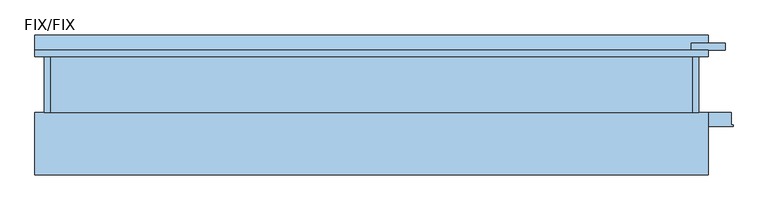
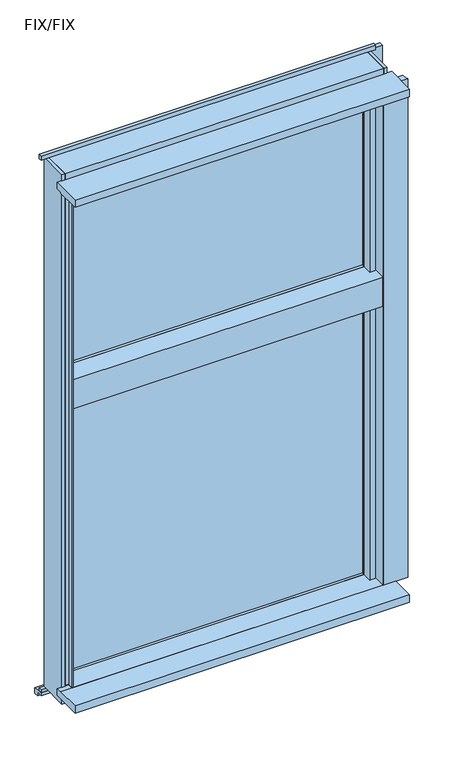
"""IFC4 building model written with IfcOpenShell, lengths in millimetres: window geometry, FNSⅡ100R_非防火_ALC枠_段窓 : FIX/FIX."""

import ifcopenshell
import ifcopenshell.guid

model = None  # the IFC model being written
_history = None  # IfcOwnerHistory: only IFC2X3 demands one
_inside = {}  # id of a spatial element -> (the spatial element, [elements in it])
_under = {}  # id of a project, library or spatial element -> (it, [spatial elements below it])
_declared = {}  # id of a project -> (the project, [libraries it declares])
_typed = {}  # id of a type object -> (the type object, [elements of that type])
_made_of = {}  # id of a material, layer set ... -> (it, [elements and type objects made of it])


def new_model(schema):
    """Start an empty IFC model of exactly this schema.

    Asked for "IFC4X3", IfcOpenShell would pick the latest addendum, in which some entities
    have other attributes; the version numbers below select the first issue.
    IFC2X3 requires an IfcOwnerHistory on every rooted entity: one is made here for all.
    """
    global model, _history
    if schema == "IFC4X3":
        model = ifcopenshell.file(schema_version=(4, 3, 0, 0))
    else:
        model = ifcopenshell.file(schema=schema)
    _inside.clear()
    _under.clear()
    _declared.clear()
    _typed.clear()
    _made_of.clear()
    _history = None
    if model.schema == "IFC2X3":
        org = make("IfcOrganization", Name="unknown")
        user = make(
            "IfcPersonAndOrganization",
            ThePerson=make("IfcPerson", FamilyName="unknown"),
            TheOrganization=org,
        )
        app = make(
            "IfcApplication",
            ApplicationDeveloper=org,
            Version="unknown",
            ApplicationFullName="unknown",
            ApplicationIdentifier="unknown",
        )
        _history = make(
            "IfcOwnerHistory",
            OwningUser=user,
            OwningApplication=app,
            ChangeAction="ADDED",
            CreationDate=0,
        )
    return model


def make(cls, **values):
    """One entity of the class cls with the attributes given. An attribute that is None is left unset."""
    return model.create_entity(
        cls, **{name: value for name, value in values.items() if value is not None}
    )


def rooted(cls, **values):
    """An entity with a GlobalId (a new one), such as an element, a storey or a relation."""
    return make(cls, GlobalId=ifcopenshell.guid.new(), OwnerHistory=_history, **values)


def si_unit(unit_type, name, prefix=None):
    """IfcSIUnit, for example si_unit("LENGTHUNIT", "METRE", prefix="MILLI")."""
    return make("IfcSIUnit", UnitType=unit_type, Prefix=prefix, Name=name)


def assignment(units):
    """IfcUnitAssignment: the units of a project."""
    return None if units is None else make("IfcUnitAssignment", Units=units)


def point(xyz):
    """IfcCartesianPoint."""
    return None if xyz is None else make("IfcCartesianPoint", Coordinates=xyz)


def direction(xyz):
    """IfcDirection."""
    return None if xyz is None else make("IfcDirection", DirectionRatios=xyz)


def frame(location, z_axis=None, x_axis=None):
    """IfcAxis2Placement3D, a coordinate frame: its origin and axes. An axis left out is left unset."""
    return make(
        "IfcAxis2Placement3D",
        Location=point(location),
        Axis=direction(z_axis),
        RefDirection=direction(x_axis),
    )


def origin():
    """The frame at (0, 0, 0) with its axes left unset."""
    return frame((0.0, 0.0, 0.0))


def place(relative_to, where):
    """IfcLocalPlacement: puts the frame where relative to a parent placement (None: the world)."""
    return make(
        "IfcLocalPlacement", PlacementRelTo=relative_to, RelativePlacement=where
    )


def context(
    kind, dimensions, precision=None, world=None, true_north=None, identifier=None
):
    """IfcGeometricRepresentationContext, for example the 3D "Model" context."""
    return make(
        "IfcGeometricRepresentationContext",
        ContextIdentifier=identifier,
        ContextType=kind,
        CoordinateSpaceDimension=dimensions,
        Precision=precision,
        WorldCoordinateSystem=world,
        TrueNorth=true_north,
    )


def project(units=None, contexts=None):
    """IfcProject with its units and contexts."""
    return rooted(
        "IfcProject",
        Name="project",
        RepresentationContexts=contexts,
        UnitsInContext=assignment(units),
    )


def spatial(cls, under=None, at=None, **own):
    """A site, building, storey or space (cls), placed at a placement, below another one or the project."""
    s = rooted(cls, ObjectPlacement=at, **own)
    if under is not None:
        _under.setdefault(under.id(), (under, []))[1].append(s)
    return s


def polyline(points):
    """IfcPolyline through the points."""
    return make("IfcPolyline", Points=[point(p) for p in points])


def outline(outer, holes=None, kind="AREA"):
    """IfcArbitraryClosedProfileDef: a profile drawn as a closed curve; with holes, ...WithVoids."""
    if holes is None:
        return make("IfcArbitraryClosedProfileDef", ProfileType=kind, OuterCurve=outer)
    return make(
        "IfcArbitraryProfileDefWithVoids",
        ProfileType=kind,
        OuterCurve=outer,
        InnerCurves=holes,
    )


def extrude(swept, where, along, depth):
    """IfcExtrudedAreaSolid: the profile swept, set in the frame where, extruded along a direction by depth."""
    return make(
        "IfcExtrudedAreaSolid",
        SweptArea=swept,
        Position=where,
        ExtrudedDirection=direction(along),
        Depth=depth,
    )


def faces_of(points, faces, orient=None, outer=None):
    """IfcFace entities. A face is a list of loops; a loop is a list of indices into points, from 0.

    orient and outer hold one flag for each loop. By default every Orientation is true, the
    first loop of a face is its IfcFaceOuterBound and the others are IfcFaceBound.
    """
    made = []
    for i, loops in enumerate(faces):
        bounds = []
        for j, loop in enumerate(loops):
            is_outer = j == 0 if outer is None else outer[i][j]
            bounds.append(
                make(
                    "IfcFaceOuterBound" if is_outer else "IfcFaceBound",
                    Bound=make("IfcPolyLoop", Polygon=[points[k] for k in loop]),
                    Orientation=True if orient is None else orient[i][j],
                )
            )
        made.append(make("IfcFace", Bounds=bounds))
    return made


def faceted_brep(points, faces, orient=None, outer=None, voids=None):
    """IfcFacetedBrep: a solid bounded by flat faces; with voids (closed shells), ...WithVoids."""
    shared = [point(p) for p in points]
    hull = make("IfcClosedShell", CfsFaces=faces_of(shared, faces, orient, outer))
    if voids is None:
        return make("IfcFacetedBrep", Outer=hull)
    return make(
        "IfcFacetedBrepWithVoids",
        Outer=hull,
        Voids=[
            make(cls, CfsFaces=faces_of(shared, fs, o, b)) for cls, fs, o, b in voids
        ],
    )


def shape(context_of_items, identifier, shape_type, items):
    """IfcShapeRepresentation: the items that make up one representation, for example the "Body"."""
    return make(
        "IfcShapeRepresentation",
        ContextOfItems=context_of_items,
        RepresentationIdentifier=identifier,
        RepresentationType=shape_type,
        Items=items,
    )


def source(mapping_origin, context_of_items, identifier, shape_type, items):
    """IfcRepresentationMap: a shape defined once, which mapped items show again and again."""
    return make(
        "IfcRepresentationMap",
        MappingOrigin=mapping_origin,
        MappedRepresentation=shape(context_of_items, identifier, shape_type, items),
    )


def transform(
    local_origin,
    x_axis=None,
    y_axis=None,
    z_axis=None,
    scale=None,
    scale2=None,
    scale3=None,
    uniform=True,
):
    """IfcCartesianTransformationOperator3D, or its non-uniform kind. x_axis, y_axis, z_axis: its Axis1, 2, 3."""
    if uniform:
        return make(
            "IfcCartesianTransformationOperator3D",
            Axis1=direction(x_axis),
            Axis2=direction(y_axis),
            LocalOrigin=point(local_origin),
            Scale=scale,
            Axis3=direction(z_axis),
        )
    return make(
        "IfcCartesianTransformationOperator3DnonUniform",
        Axis1=direction(x_axis),
        Axis2=direction(y_axis),
        LocalOrigin=point(local_origin),
        Scale=scale,
        Axis3=direction(z_axis),
        Scale2=scale2,
        Scale3=scale3,
    )


def mapped(mapping_source, mapping_target):
    """IfcMappedItem: shows the shape of a source again, moved by a transform."""
    return make(
        "IfcMappedItem", MappingSource=mapping_source, MappingTarget=mapping_target
    )


def made_of(thing, what):
    """Note that an element or type object is made of a material, layer set ...; save() writes the relation."""
    if what is not None:
        _made_of.setdefault(what.id(), (what, []))[1].append(thing)
    return thing


def element(
    cls,
    number,
    at=None,
    inside=None,
    cuts=None,
    type_object=None,
    material=None,
    context=None,
    identifier="Body",
    shape_type=None,
    held_by="IfcProductDefinitionShape",
    body=None,
    shapes=None,
    **own,
):
    """One element of the class cls, such as IfcWall. Its Tag is "e" and its number.

    at: its placement. inside: the storey or other place that contains it. cuts: it is an
    opening in that element (IfcRelVoidsElement). A single representation is given by context,
    identifier, shape_type and body (its items); several are given by shapes. held_by: the class
    of the entity that holds the representations. save() writes the other relations.
    """
    e = rooted(cls, Tag="e%d" % number, ObjectPlacement=at, **own)
    if body is not None:
        shapes = [shape(context, identifier, shape_type, body)]
    if shapes is not None:
        e.Representation = make(held_by, Representations=shapes)
    if inside is not None:
        _inside.setdefault(inside.id(), (inside, []))[1].append(e)
    if cuts is not None:
        rooted(
            "IfcRelVoidsElement", RelatingBuildingElement=cuts, RelatedOpeningElement=e
        )
    if type_object is not None:
        _typed.setdefault(type_object.id(), (type_object, []))[1].append(e)
    return made_of(e, material)


def aggregate(whole, parts):
    """IfcRelAggregates: a whole, such as a stair, and the parts it consists of."""
    return rooted("IfcRelAggregates", RelatingObject=whole, RelatedObjects=parts)


def save(model, path):
    """Write the relations noted so far, then the file.

    IfcRelAggregates (storeys below a building ...), IfcRelContainedInSpatialStructure (elements
    in a storey), IfcRelDefinesByType, IfcRelAssociatesMaterial and IfcRelDeclares: one each for
    every whole, place, type object, material and project.
    """
    for whole, parts in _under.values():
        aggregate(whole, parts)
    for where, things in _inside.values():
        rooted(
            "IfcRelContainedInSpatialStructure",
            RelatedElements=things,
            RelatingStructure=where,
        )
    for kind, things in _typed.values():
        rooted("IfcRelDefinesByType", RelatedObjects=things, RelatingType=kind)
    for what, things in _made_of.values():
        rooted("IfcRelAssociatesMaterial", RelatedObjects=things, RelatingMaterial=what)
    for by, libraries in _declared.values():
        rooted("IfcRelDeclares", RelatingContext=by, RelatedDefinitions=libraries)
    model.write(path)


def fix_fix_f5c79427(model_context):
    return source(origin(), model_context, "Body", "SolidModel", [
        extrude(outline(polyline([(-480.0, 55.6), (480.0, 55.6), (480.0, 49.6), (-480.0, 49.6), (-480.0, 55.6)])), frame((0.0, 0.0, 1950.0), z_axis=(0.0, 0.0, 1.0), x_axis=(1.0, 0.0, 0.0)), (0.0, 0.0, 1.0), 650.0),
        extrude(outline(polyline([(-480.0, 73.6), (480.0, 73.6), (480.0, 67.6), (-480.0, 67.6), (-480.0, 73.6)])), frame((0.0, 0.0, 1950.0), z_axis=(0.0, 0.0, 1.0), x_axis=(1.0, 0.0, 0.0)), (0.0, 0.0, 1.0), 650.0),
        extrude(outline(polyline([(-480.0, 55.6), (480.0, 55.6), (480.0, 49.6), (-480.0, 49.6), (-480.0, 55.6)])), frame((0.0, 0.0, 900.0), z_axis=(0.0, 0.0, 1.0), x_axis=(1.0, 0.0, 0.0)), (0.0, 0.0, 1.0), 950.0),
        extrude(outline(polyline([(-480.0, 73.6), (480.0, 73.6), (480.0, 67.6), (-480.0, 67.6), (-480.0, 73.6)])), frame((0.0, 0.0, 900.0), z_axis=(0.0, 0.0, 1.0), x_axis=(1.0, 0.0, 0.0)), (0.0, 0.0, 1.0), 950.0),
        faceted_brep([(-525.0, 90.0, 840.0), (-515.0, 90.0, 840.0), (-515.0, -10.0, 840.0), (-525.0, -10.0, 840.0), (-515.0, 90.0, 2645.0), (-515.0, -10.0, 2645.0), (-515.0, 90.0, 900.0), (-515.0, 40.0, 900.0), (-515.0, 40.0, 2600.0), (-515.0, 90.0, 2600.0), (-525.0, -10.0, 2645.0), (-480.0, 90.0, 900.0), (-480.0, 40.0, 900.0), (-480.0, 90.0, 2600.0), (-480.0, 40.0, 2600.0), (-525.0, 90.0, 2645.0)], [[[0, 1, 2, 3]], [[4, 5, 2, 1, 6, 7, 8, 9]], [[5, 10, 3, 2]], [[11, 12, 7, 6]], [[13, 14, 12, 11]], [[15, 10, 5, 4]], [[15, 4, 9, 13, 11, 6, 1, 0]], [[10, 15, 0, 3]], [[14, 8, 7, 12]], [[13, 9, 8, 14]]]),
        faceted_brep([(525.0, 90.0, 840.0), (525.0, -10.0, 840.0), (515.0, -10.0, 840.0), (515.0, 90.0, 840.0), (525.0, 90.0, 2645.0), (525.0, -10.0, 2645.0), (515.0, -10.0, 2645.0), (515.0, 90.0, 2645.0), (515.0, 90.0, 2600.0), (515.0, 40.0, 2600.0), (515.0, 40.0, 900.0), (515.0, 90.0, 900.0), (480.0, 40.0, 900.0), (480.0, 90.0, 900.0), (480.0, 90.0, 2600.0), (480.0, 40.0, 2600.0)], [[[0, 1, 2, 3]], [[4, 5, 1, 0]], [[6, 7, 8, 9, 10, 11, 3, 2]], [[10, 12, 13, 11]], [[4, 7, 6, 5]], [[5, 6, 2, 1]], [[7, 4, 0, 3, 11, 13, 14, 8]], [[15, 14, 13, 12]], [[9, 15, 12, 10]], [[8, 14, 15, 9]]]),
        extrude(outline(polyline([(500.0, -30.0), (500.0, 8.5), (480.0, 8.5), (480.0, 40.0), (515.0, 40.0), (515.0, -10.0), (503.0, -10.0), (503.0, -30.0), (500.0, -30.0)])), frame((0.0, 0.0, 900.0), z_axis=(0.0, 0.0, 1.0), x_axis=(1.0, 0.0, 0.0)), (0.0, 0.0, 1.0), 1700.0),
        extrude(outline(polyline([(-515.0, -10.0), (-515.0, 40.0), (-480.0, 40.0), (-480.0, 8.5), (-500.0, 8.5), (-500.0, -30.0), (-503.0, -30.0), (-503.0, -10.0), (-515.0, -10.0)])), frame((0.0, 0.0, 900.0), z_axis=(0.0, 0.0, 1.0), x_axis=(1.0, 0.0, 0.0)), (0.0, 0.0, 1.0), 1700.0),
        extrude(outline(polyline([(-10.0, 884.0), (-10.0, 897.0), (-30.0, 897.0), (-30.0, 900.0), (40.0, 900.0), (40.0, 884.0), (-10.0, 884.0)])), frame((-503.0, 0.0, 0.0), z_axis=(1.0, 0.0, 0.0), x_axis=(0.0, 1.0, 0.0)), (0.0, 0.0, 1.0), 1006.0),
        extrude(outline(polyline([(90.0, 840.0), (-10.0, 840.0), (-10.0, 884.0), (40.0, 884.0), (40.0, 900.0), (90.0, 900.0), (90.0, 870.0), (71.0, 870.0), (71.0, 850.0), (90.0, 850.0), (90.0, 840.0)])), frame((-515.0, 0.0, 0.0), z_axis=(1.0, 0.0, 0.0), x_axis=(0.0, 1.0, 0.0)), (0.0, 0.0, 1.0), 1030.0),
        extrude(outline(polyline([(40.0, 1936.0), (-10.0, 1936.0), (-10.0, 1865.0), (40.0, 1865.0), (40.0, 1850.0), (-30.0, 1850.0), (-30.0, 1950.0), (40.0, 1950.0), (40.0, 1936.0)])), frame((-500.0, 0.0, 0.0), z_axis=(1.0, 0.0, 0.0), x_axis=(0.0, 1.0, 0.0)), (0.0, 0.0, 1.0), 1000.0),
        extrude(outline(polyline([(90.0, 1850.0), (40.0, 1850.0), (40.0, 1865.0), (-10.0, 1865.0), (-10.0, 1936.0), (40.0, 1936.0), (40.0, 1950.0), (90.0, 1950.0), (90.0, 1920.0), (71.0, 1920.0), (71.0, 1904.0), (80.5, 1900.0), (90.0, 1900.0), (90.0, 1850.0)])), frame((-480.0, 0.0, 0.0), z_axis=(1.0, 0.0, 0.0), x_axis=(0.0, 1.0, 0.0)), (0.0, 0.0, 1.0), 960.0),
        extrude(outline(polyline([(40.0, 2600.0), (-30.0, 2600.0), (-30.0, 2603.0), (-10.0, 2603.0), (-10.0, 2615.0), (40.0, 2615.0), (40.0, 2600.0)])), frame((-503.0, 0.0, 0.0), z_axis=(1.0, 0.0, 0.0), x_axis=(0.0, 1.0, 0.0)), (0.0, 0.0, 1.0), 1006.0),
        extrude(outline(polyline([(90.0, 2600.0), (40.0, 2600.0), (40.0, 2615.0), (-10.0, 2615.0), (-10.0, 2645.0), (90.0, 2645.0), (90.0, 2600.0)])), frame((-515.0, 0.0, 0.0), z_axis=(1.0, 0.0, 0.0), x_axis=(0.0, 1.0, 0.0)), (0.0, 0.0, 1.0), 1030.0),
        extrude(outline(polyline([(-110.0, 900.0), (-30.0, 900.0), (-30.0, 897.0), (-10.0, 897.0), (-10.0, 875.0), (-110.0, 875.0), (-110.0, 900.0)])), frame((-540.0, 0.0, 0.0), z_axis=(1.0, 0.0, 0.0), x_axis=(0.0, 1.0, 0.0)), (0.0, 0.0, 1.0), 1080.0),
        extrude(outline(polyline([(-540.0, 80.0), (-540.0, 90.0), (540.0, 90.0), (540.0, 80.0), (-540.0, 80.0)])), frame((0.0, 0.0, 830.0), z_axis=(0.0, 0.0, 1.0), x_axis=(1.0, 0.0, 0.0)), (0.0, 0.0, 1.0), 10.0),
        extrude(outline(polyline([(100.0, 807.0), (100.0, 820.0), (80.0, 820.0), (80.0, 830.0), (90.0, 830.0), (115.0, 825.0), (115.0, 807.0), (100.0, 807.0)])), frame((-540.0, 0.0, 0.0), z_axis=(1.0, 0.0, 0.0), x_axis=(0.0, 1.0, 0.0)), (0.0, 0.0, 1.0), 1080.0),
        extrude(outline(polyline([(503.0, -30.0), (503.0, -10.0), (577.0, -10.0), (577.0, -30.0), (580.0, -30.0), (580.0, -32.5), (500.0, -32.5), (500.0, -30.0), (503.0, -30.0)])), frame((0.0, 0.0, 900.0), z_axis=(0.0, 0.0, 1.0), x_axis=(1.0, 0.0, 0.0)), (0.0, 0.0, 1.0), 1700.0),
        extrude(outline(polyline([(567.5, 90.0), (512.5, 90.0), (512.5, 102.0), (567.5, 102.0), (567.5, 90.0)])), frame((0.0, 0.0, 840.0), z_axis=(0.0, 0.0, 1.0), x_axis=(1.0, 0.0, 0.0)), (0.0, 0.0, 1.0), 1805.0),
        extrude(outline(polyline([(-110.0, 2625.0), (-10.0, 2625.0), (-10.0, 2603.0), (-30.0, 2603.0), (-30.0, 2600.0), (-110.0, 2600.0), (-110.0, 2625.0)])), frame((-540.0, 0.0, 0.0), z_axis=(1.0, 0.0, 0.0), x_axis=(0.0, 1.0, 0.0)), (0.0, 0.0, 1.0), 1080.0),
        extrude(outline(polyline([(-540.0, 80.0), (-540.0, 90.0), (540.0, 90.0), (540.0, 80.0), (-540.0, 80.0)])), frame((0.0, 0.0, 2645.0), z_axis=(0.0, 0.0, 1.0), x_axis=(1.0, 0.0, 0.0)), (0.0, 0.0, 1.0), 15.0),
    ])


if __name__ == "__main__":
    model = new_model("IFC4")
    model_context = context("Model", 3, world=origin())
    ifc_project = project(units=[si_unit("LENGTHUNIT", "METRE", prefix="MILLI")], contexts=[model_context])
    site = spatial("IfcSite", under=ifc_project)
    building = spatial("IfcBuilding", under=site)
    placement = place(None, origin())
    fix_fix_shape = fix_fix_f5c79427(model_context)
    element("IfcWindow", 1, ObjectType="FNSⅡ100R_非防火_ALC枠_段窓 : FIX/FIX", at=placement, inside=building, context=model_context, shape_type="MappedRepresentation", body=[
        mapped(fix_fix_shape, transform((0.0, 0.0, 0.0), x_axis=(1.0, 0.0, 0.0), y_axis=(0.0, 1.0, 0.0), z_axis=(0.0, 0.0, 1.0))),
    ])
    save(model, "model.ifc")
